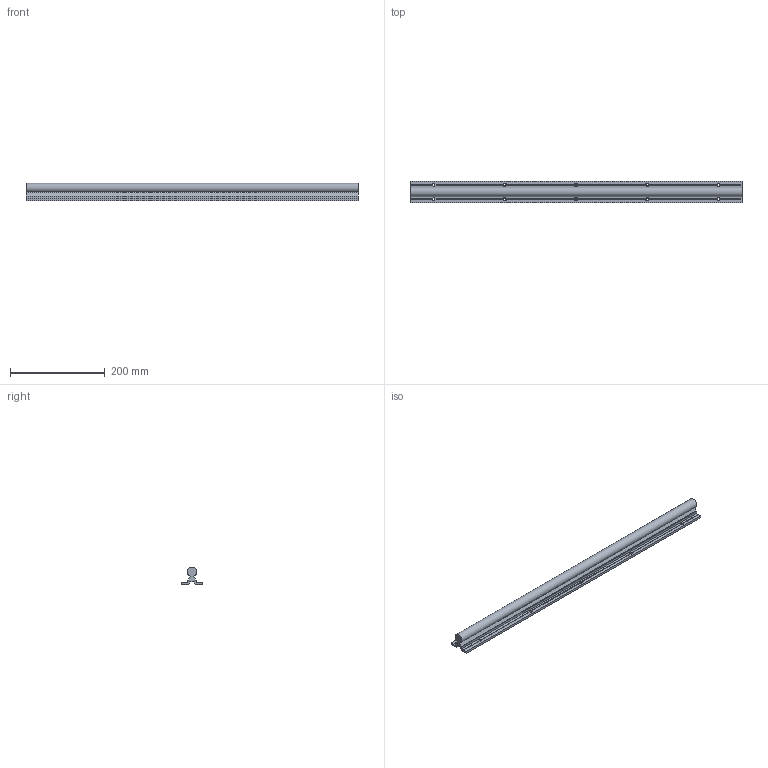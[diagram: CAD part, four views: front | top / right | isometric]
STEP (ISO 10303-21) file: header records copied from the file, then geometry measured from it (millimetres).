
FILE_DESCRIPTION(/* description */ (''),/* implementation_level */ '2;1');
FILE_NAME(/* name */ 'C:\Users\David\Desktop\stepFiles\Profilfuehrung\LFS20x700.stp',/* time_stamp */ '2018-06-24T15:21:55+02:00',/* author */ ('Buskamp'),/* organization */ (''),/* preprocessor_version */ 'ST-DEVELOPER v17',/* originating_system */ 'Autodesk Inventor 2019',/* authorisation */ '');
FILE_SCHEMA (('AUTOMOTIVE_DESIGN { 1 0 10303 214 3 1 1 }'));
Length unit declared in the file: millimetre
Products named in the file (1): Linearführung D20xvariabel
Bounding box: 700 x 45 x 37 mm (x, y, z)
Volume: 452191.7 mm3; surface area: 124893.4 mm2
Topology: 1 solids, 1 shells, 82 faces, 248 edges, 158 vertices
Faces by surface type: plane 55, cone 16, cylinder 11
Full cylindrical faces by diameter (mm): 5.5 x10
Entity records: 2831 total; most frequent: CARTESIAN_POINT 553, ORIENTED_EDGE 496, DIRECTION 470, EDGE_CURVE 248, AXIS2_PLACEMENT_3D 171, VERTEX_POINT 158, LINE 128, VECTOR 128
